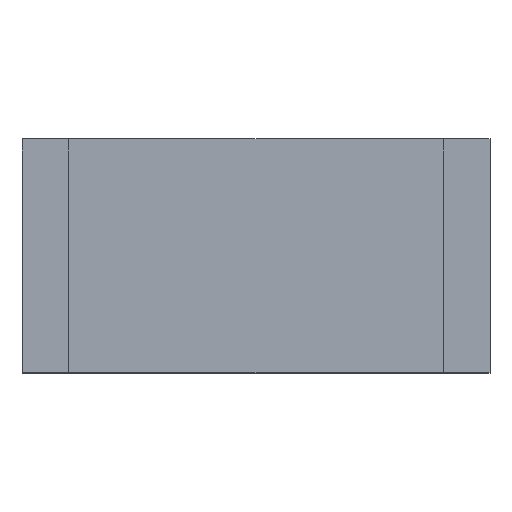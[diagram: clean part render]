
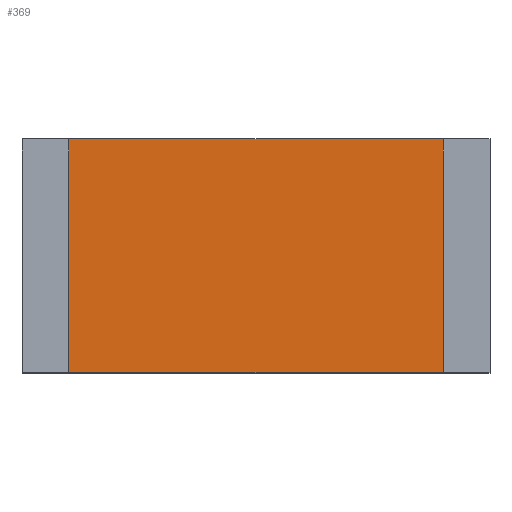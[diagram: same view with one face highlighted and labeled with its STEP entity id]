
A CAD part, top view. The second image highlights one B-rep face of the part: STEP entity #369.
In plain terms, the highlighted planar face has unit normal (0, 0, 1).
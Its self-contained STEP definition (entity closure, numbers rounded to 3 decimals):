
#369=ADVANCED_FACE('',(#766),#768,.F.);
#766=FACE_BOUND('',#767,.T.);
#767=EDGE_LOOP('',(#1050,#1051,#1052,#1053));
#768=PLANE('',#769);
#769=AXIS2_PLACEMENT_3D('',#770,#771,#772);
#770=CARTESIAN_POINT('',(0.,0.,0.6));
#771=DIRECTION('',(0.,0.,-1.));
#772=DIRECTION('',(1.,0.,0.));
#1050=ORIENTED_EDGE('',*,*,#1226,.F.);
#1051=ORIENTED_EDGE('',*,*,#1223,.F.);
#1052=ORIENTED_EDGE('',*,*,#1220,.F.);
#1053=ORIENTED_EDGE('',*,*,#1216,.F.);
#1216=EDGE_CURVE('',#1379,#1380,#1381,.T.);
#1220=EDGE_CURVE('',#1380,#1387,#1388,.T.);
#1223=EDGE_CURVE('',#1387,#1392,#1393,.T.);
#1226=EDGE_CURVE('',#1392,#1379,#1397,.T.);
#1379=VERTEX_POINT('',#1704);
#1380=VERTEX_POINT('',#1705);
#1381=LINE('',#1706,#1707);
#1387=VERTEX_POINT('',#1720);
#1388=LINE('',#1721,#1722);
#1392=VERTEX_POINT('',#1731);
#1393=LINE('',#1732,#1733);
#1397=LINE('',#1742,#1743);
#1704=CARTESIAN_POINT('',(2.,-1.25,0.6));
#1705=CARTESIAN_POINT('',(-2.,-1.25,0.6));
#1706=CARTESIAN_POINT('',(2.,-1.25,0.6));
#1707=VECTOR('',#1708,1.);
#1708=DIRECTION('',(-1.,0.,0.));
#1720=CARTESIAN_POINT('',(-2.,1.25,0.6));
#1721=CARTESIAN_POINT('',(-2.,-1.25,0.6));
#1722=VECTOR('',#1723,1.);
#1723=DIRECTION('',(0.,1.,0.));
#1731=CARTESIAN_POINT('',(2.,1.25,0.6));
#1732=CARTESIAN_POINT('',(-2.,1.25,0.6));
#1733=VECTOR('',#1734,1.);
#1734=DIRECTION('',(1.,0.,0.));
#1742=CARTESIAN_POINT('',(2.,1.25,0.6));
#1743=VECTOR('',#1744,1.);
#1744=DIRECTION('',(0.,-1.,0.));
